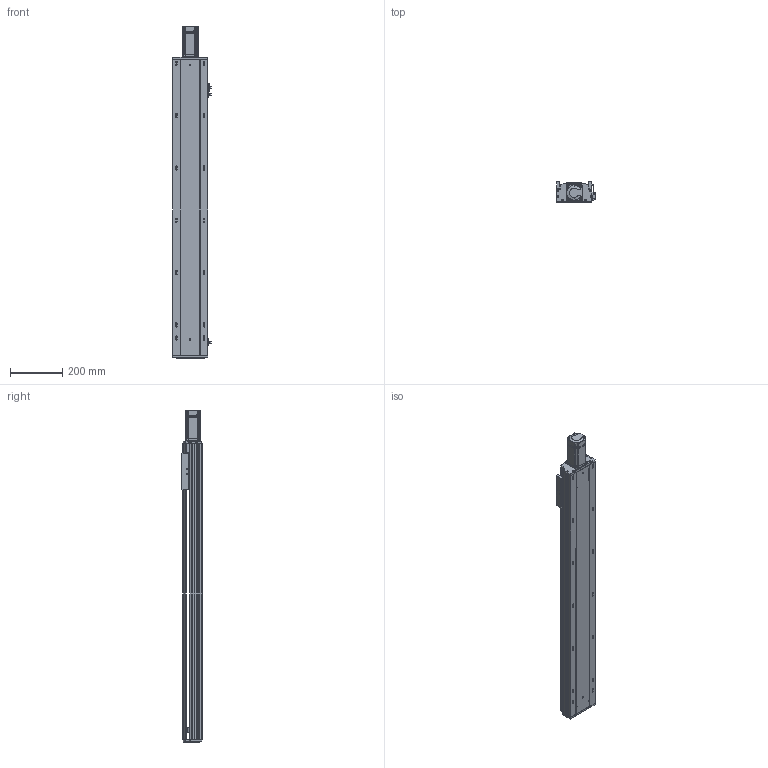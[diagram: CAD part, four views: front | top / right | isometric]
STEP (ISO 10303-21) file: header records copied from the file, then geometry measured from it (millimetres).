
FILE_DESCRIPTION (( 'STEP AP203' ), '1' );
FILE_NAME ('RY140Q-L2010-1000-MK.SLDASM_0900.step', '2021-05-27T07:34:12', ( '盈信电脑' ), ( '东莞市道滘镇水果街19号' ), 'SwSTEP 2.0', 'SolidWorks 2016', '' );
FILE_SCHEMA (( 'CONFIG_CONTROL_DESIGN' ));
Length unit declared in the file: millimetre
Products named in the file (13): 滅袉蝶18-15; RY120外置感应片(140共用）; RY140Q-1000-MK倰第菁釱_0900; RY140Q萇儂傷盓傅釱FK12(80.5酗M5); 15; RY140Q-1000-MK倰第奻裔啣_0900; 覜茼ん672; RY140Q-L2010-1000-MK.SLDASM_0900; RY140綴裔啣; RY140ヶ裔啣; 侂狟400W侜督萇儂; 滅袉蝶18-10; RY140Q臏賑輸(20佪裝-J
Assembly tree (15 placements, depth 3):
  RY140Q-L2010-1000-MK.SLDASM_0900
    RY140Q-1000-MK倰第菁釱_0900
    RY140Q臏賑輸(20佪裝-J
    RY140Q-1000-MK倰第奻裔啣_0900
    RY140ヶ裔啣
    侂狟400W侜督萇儂
      15
    RY140綴裔啣
    覜茼ん672  x3
    RY120外置感应片(140共用）
    RY140Q萇儂傷盓傅釱FK12(80.5酗M5)
    滅袉蝶18-10
    滅袉蝶18-15  x2
Bounding box: 148.7 x 78 x 1269.5 mm (x, y, z)
Volume: 3595419.4 mm3; surface area: 1307538.9 mm2
Topology: 14 solids, 14 shells, 2118 faces, 5853 edges, 3737 vertices
Faces by surface type: plane 1078, cylinder 748, cone 207, bspline 85
Entity records: 69809 total; most frequent: CARTESIAN_POINT 16720, ORIENTED_EDGE 10974, DIRECTION 10455, EDGE_CURVE 5487, VERTEX_POINT 3597, LINE 3517, VECTOR 3517, AXIS2_PLACEMENT_3D 3469
